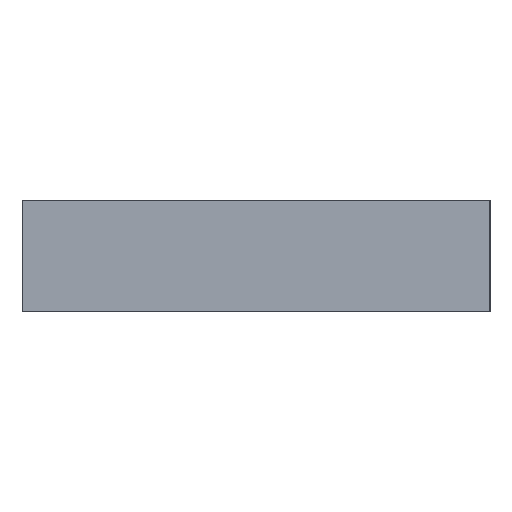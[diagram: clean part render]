
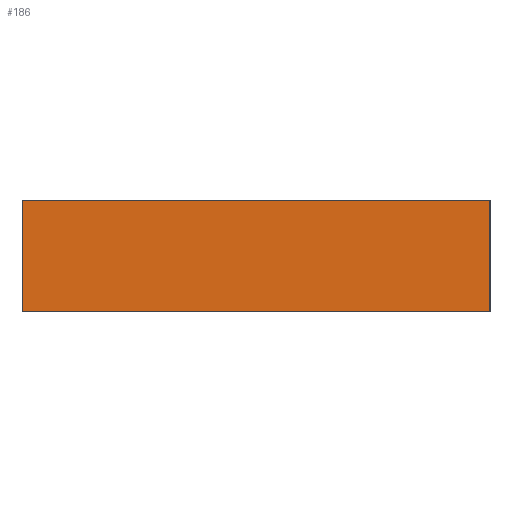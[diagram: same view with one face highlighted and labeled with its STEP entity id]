
A CAD part, left-side view. The second image highlights one B-rep face of the part: STEP entity #186.
In plain terms, the highlighted planar face has unit normal (-1, 0, 0).
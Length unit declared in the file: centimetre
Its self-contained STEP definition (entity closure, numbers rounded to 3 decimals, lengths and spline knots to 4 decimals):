
#108=VERTEX_POINT('',#225);
#109=VERTEX_POINT('',#227);
#110=VERTEX_POINT('',#231);
#111=VERTEX_POINT('',#233);
#117=VECTOR('',#203,1.);
#119=VECTOR('',#206,1.);
#120=VECTOR('',#207,1.);
#121=VECTOR('',#208,1.);
#129=LINE('',#226,#117);
#131=LINE('',#230,#119);
#132=LINE('',#232,#120);
#133=LINE('',#234,#121);
#141=EDGE_CURVE('',#109,#108,#129,.T.);
#143=EDGE_CURVE('',#108,#110,#131,.T.);
#144=EDGE_CURVE('',#111,#110,#132,.T.);
#145=EDGE_CURVE('',#109,#111,#133,.T.);
#156=ORIENTED_EDGE('',*,*,#143,.T.);
#157=ORIENTED_EDGE('',*,*,#144,.F.);
#158=ORIENTED_EDGE('',*,*,#145,.F.);
#159=ORIENTED_EDGE('',*,*,#141,.T.);
#174=EDGE_LOOP('',(#156,#157,#158,#159));
#180=FACE_BOUND('',#174,.T.);
#186=ADVANCED_FACE('',(#180),#242,.T.);
#192=AXIS2_PLACEMENT_3D('',#229,#205,$);
#203=DIRECTION('',(0.,0.,1.));
#205=DIRECTION('',(-1.,0.,0.));
#206=DIRECTION('',(0.,1.,0.));
#207=DIRECTION('',(0.,0.,1.));
#208=DIRECTION('',(0.,1.,0.));
#225=CARTESIAN_POINT('',(34.5,-93.2301,3.8));
#226=CARTESIAN_POINT('',(34.5,-93.2301,0.));
#227=CARTESIAN_POINT('',(34.5,-93.2301,0.));
#229=CARTESIAN_POINT('',(34.5,-85.2901,0.));
#230=CARTESIAN_POINT('',(34.5,-93.2301,3.8));
#231=CARTESIAN_POINT('',(34.5,-77.35,3.8));
#232=CARTESIAN_POINT('',(34.5,-77.35,0.));
#233=CARTESIAN_POINT('',(34.5,-77.35,0.));
#234=CARTESIAN_POINT('',(34.5,-93.2301,0.));
#242=PLANE('',#192);
